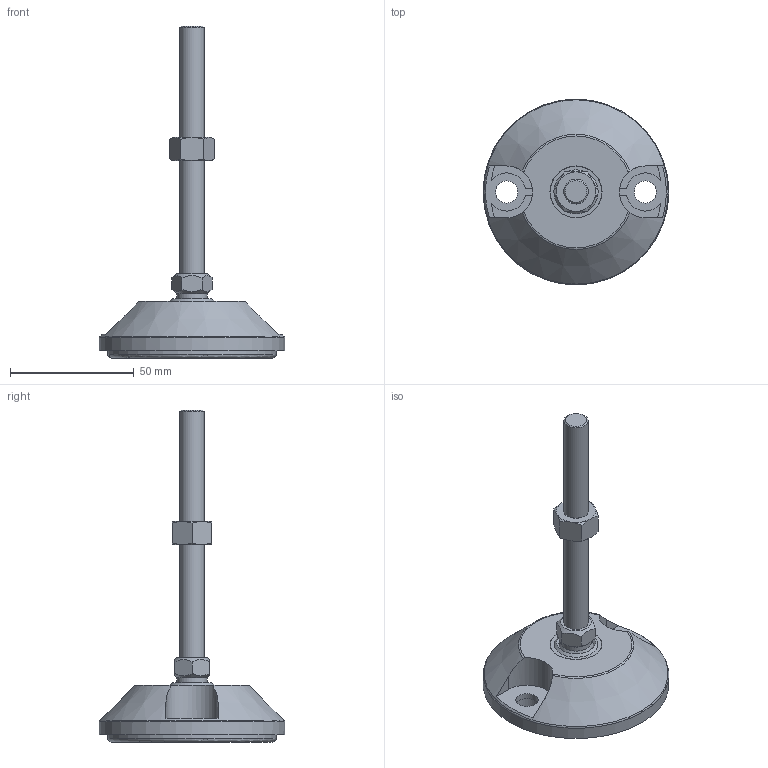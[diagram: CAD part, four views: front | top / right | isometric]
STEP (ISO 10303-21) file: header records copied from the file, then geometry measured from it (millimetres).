
FILE_DESCRIPTION(/* description */ (''),/* implementation_level */ '2;1');
FILE_NAME(/* name */ 'Articulating Anti-slip Levelling Foot - Metal 75mm - M10 - 100mm.step',/* time_stamp */ '2025-10-14T13:57:50+03:00',/* author */ (''),/* organization */ (''),/* preprocessor_version */ 'ST-DEVELOPER v20.1',/* originating_system */ 'Autodesk Translation Framework v14.17.0.0',/* authorisation */ '');
FILE_SCHEMA (('AUTOMOTIVE_DESIGN { 1 0 10303 214 3 1 1 }'));
Length unit declared in the file: millimetre
Products named in the file (8): Articulating Anti-slip Levelling Foot - Metal 75mm - M10 - 100mm; Articulating Levelling Foot Stud - M10 - 100mm; hex nut style 2_am_B18.2.4.2M - Hex nut, Style 2,  M10 x 1.5, with 16
mm WAF --D-N; Articulating Levelling Foot Stud - M10 - 100mm_1; 340-1000A-01_ASM; 340-1001B-01; 340-1003B-01; 340-1002B-01
Assembly tree (7 placements, depth 3):
  Articulating Anti-slip Levelling Foot - Metal 75mm - M10 - 100mm
    Articulating Levelling Foot Stud - M10 - 100mm
      hex nut style 2_am_B18.2.4.2M - Hex nut, Style 2,  M10 x 1.5, with 16
mm WAF --D-N
      Articulating Levelling Foot Stud - M10 - 100mm_1
    340-1000A-01_ASM
      340-1001B-01
      340-1003B-01
      340-1002B-01
Bounding box: 75 x 75 x 134.01 mm (x, y, z)
Volume: 68531.5 mm3; surface area: 33197.5 mm2
Topology: 5 solids, 5 shells, 184 faces, 462 edges, 303 vertices
Faces by surface type: plane 93, cylinder 46, cone 37, torus 4, bspline 3, sphere 1
Full cylindrical faces by diameter (mm): 3.7 x2, 3.996 x1, 7 x2, 8.526 x1, 9 x2, 9.85 x1, 10 x1, 11 x2, 12.166 x1, 15 x2, 15.052 x1, 16 x1, 20 x1, 20.8 x1, 21 x1, 40 x1, 68 x1, 69 x1, 75 x1
Entity records: 6275 total; most frequent: CARTESIAN_POINT 1659, DIRECTION 953, ORIENTED_EDGE 922, EDGE_CURVE 461, AXIS2_PLACEMENT_3D 386, VERTEX_POINT 303, EDGE_LOOP 214, CIRCLE 190
